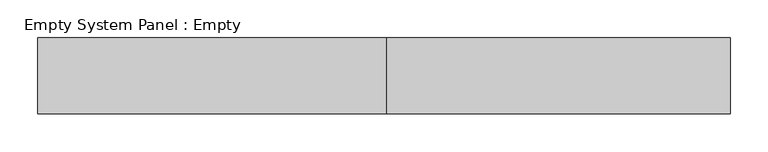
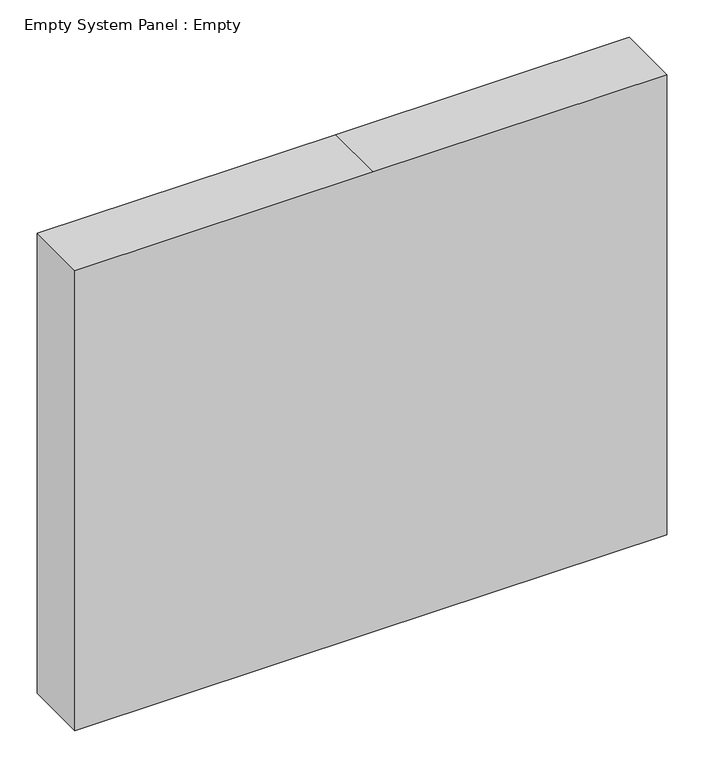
"""IFC4 building model written with IfcOpenShell, lengths in millimetres: plate geometry, Empty System Panel : Empty."""

import ifcopenshell
import ifcopenshell.guid

model = None  # the IFC model being written
_history = None  # IfcOwnerHistory: only IFC2X3 demands one
_inside = {}  # id of a spatial element -> (the spatial element, [elements in it])
_under = {}  # id of a project, library or spatial element -> (it, [spatial elements below it])
_declared = {}  # id of a project -> (the project, [libraries it declares])
_typed = {}  # id of a type object -> (the type object, [elements of that type])
_made_of = {}  # id of a material, layer set ... -> (it, [elements and type objects made of it])


def new_model(schema):
    """Start an empty IFC model of exactly this schema.

    Asked for "IFC4X3", IfcOpenShell would pick the latest addendum, in which some entities
    have other attributes; the version numbers below select the first issue.
    IFC2X3 requires an IfcOwnerHistory on every rooted entity: one is made here for all.
    """
    global model, _history
    if schema == "IFC4X3":
        model = ifcopenshell.file(schema_version=(4, 3, 0, 0))
    else:
        model = ifcopenshell.file(schema=schema)
    _inside.clear()
    _under.clear()
    _declared.clear()
    _typed.clear()
    _made_of.clear()
    _history = None
    if model.schema == "IFC2X3":
        org = make("IfcOrganization", Name="unknown")
        user = make(
            "IfcPersonAndOrganization",
            ThePerson=make("IfcPerson", FamilyName="unknown"),
            TheOrganization=org,
        )
        app = make(
            "IfcApplication",
            ApplicationDeveloper=org,
            Version="unknown",
            ApplicationFullName="unknown",
            ApplicationIdentifier="unknown",
        )
        _history = make(
            "IfcOwnerHistory",
            OwningUser=user,
            OwningApplication=app,
            ChangeAction="ADDED",
            CreationDate=0,
        )
    return model


def make(cls, **values):
    """One entity of the class cls with the attributes given. An attribute that is None is left unset."""
    return model.create_entity(
        cls, **{name: value for name, value in values.items() if value is not None}
    )


def rooted(cls, **values):
    """An entity with a GlobalId (a new one), such as an element, a storey or a relation."""
    return make(cls, GlobalId=ifcopenshell.guid.new(), OwnerHistory=_history, **values)


def si_unit(unit_type, name, prefix=None):
    """IfcSIUnit, for example si_unit("LENGTHUNIT", "METRE", prefix="MILLI")."""
    return make("IfcSIUnit", UnitType=unit_type, Prefix=prefix, Name=name)


def assignment(units):
    """IfcUnitAssignment: the units of a project."""
    return None if units is None else make("IfcUnitAssignment", Units=units)


def point(xyz):
    """IfcCartesianPoint."""
    return None if xyz is None else make("IfcCartesianPoint", Coordinates=xyz)


def direction(xyz):
    """IfcDirection."""
    return None if xyz is None else make("IfcDirection", DirectionRatios=xyz)


def frame(location, z_axis=None, x_axis=None):
    """IfcAxis2Placement3D, a coordinate frame: its origin and axes. An axis left out is left unset."""
    return make(
        "IfcAxis2Placement3D",
        Location=point(location),
        Axis=direction(z_axis),
        RefDirection=direction(x_axis),
    )


def origin():
    """The frame at (0, 0, 0) with its axes left unset."""
    return frame((0.0, 0.0, 0.0))


def place(relative_to, where):
    """IfcLocalPlacement: puts the frame where relative to a parent placement (None: the world)."""
    return make(
        "IfcLocalPlacement", PlacementRelTo=relative_to, RelativePlacement=where
    )


def context(
    kind, dimensions, precision=None, world=None, true_north=None, identifier=None
):
    """IfcGeometricRepresentationContext, for example the 3D "Model" context."""
    return make(
        "IfcGeometricRepresentationContext",
        ContextIdentifier=identifier,
        ContextType=kind,
        CoordinateSpaceDimension=dimensions,
        Precision=precision,
        WorldCoordinateSystem=world,
        TrueNorth=true_north,
    )


def project(units=None, contexts=None):
    """IfcProject with its units and contexts."""
    return rooted(
        "IfcProject",
        Name="project",
        RepresentationContexts=contexts,
        UnitsInContext=assignment(units),
    )


def spatial(cls, under=None, at=None, **own):
    """A site, building, storey or space (cls), placed at a placement, below another one or the project."""
    s = rooted(cls, ObjectPlacement=at, **own)
    if under is not None:
        _under.setdefault(under.id(), (under, []))[1].append(s)
    return s


def polyline(points):
    """IfcPolyline through the points."""
    return make("IfcPolyline", Points=[point(p) for p in points])


def outline(outer, holes=None, kind="AREA"):
    """IfcArbitraryClosedProfileDef: a profile drawn as a closed curve; with holes, ...WithVoids."""
    if holes is None:
        return make("IfcArbitraryClosedProfileDef", ProfileType=kind, OuterCurve=outer)
    return make(
        "IfcArbitraryProfileDefWithVoids",
        ProfileType=kind,
        OuterCurve=outer,
        InnerCurves=holes,
    )


def extrude(swept, where, along, depth):
    """IfcExtrudedAreaSolid: the profile swept, set in the frame where, extruded along a direction by depth."""
    return make(
        "IfcExtrudedAreaSolid",
        SweptArea=swept,
        Position=where,
        ExtrudedDirection=direction(along),
        Depth=depth,
    )


def shape(context_of_items, identifier, shape_type, items):
    """IfcShapeRepresentation: the items that make up one representation, for example the "Body"."""
    return make(
        "IfcShapeRepresentation",
        ContextOfItems=context_of_items,
        RepresentationIdentifier=identifier,
        RepresentationType=shape_type,
        Items=items,
    )


def source(mapping_origin, context_of_items, identifier, shape_type, items):
    """IfcRepresentationMap: a shape defined once, which mapped items show again and again."""
    return make(
        "IfcRepresentationMap",
        MappingOrigin=mapping_origin,
        MappedRepresentation=shape(context_of_items, identifier, shape_type, items),
    )


def transform(
    local_origin,
    x_axis=None,
    y_axis=None,
    z_axis=None,
    scale=None,
    scale2=None,
    scale3=None,
    uniform=True,
):
    """IfcCartesianTransformationOperator3D, or its non-uniform kind. x_axis, y_axis, z_axis: its Axis1, 2, 3."""
    if uniform:
        return make(
            "IfcCartesianTransformationOperator3D",
            Axis1=direction(x_axis),
            Axis2=direction(y_axis),
            LocalOrigin=point(local_origin),
            Scale=scale,
            Axis3=direction(z_axis),
        )
    return make(
        "IfcCartesianTransformationOperator3DnonUniform",
        Axis1=direction(x_axis),
        Axis2=direction(y_axis),
        LocalOrigin=point(local_origin),
        Scale=scale,
        Axis3=direction(z_axis),
        Scale2=scale2,
        Scale3=scale3,
    )


def mapped(mapping_source, mapping_target):
    """IfcMappedItem: shows the shape of a source again, moved by a transform."""
    return make(
        "IfcMappedItem", MappingSource=mapping_source, MappingTarget=mapping_target
    )


def made_of(thing, what):
    """Note that an element or type object is made of a material, layer set ...; save() writes the relation."""
    if what is not None:
        _made_of.setdefault(what.id(), (what, []))[1].append(thing)
    return thing


def element(
    cls,
    number,
    at=None,
    inside=None,
    cuts=None,
    type_object=None,
    material=None,
    context=None,
    identifier="Body",
    shape_type=None,
    held_by="IfcProductDefinitionShape",
    body=None,
    shapes=None,
    **own,
):
    """One element of the class cls, such as IfcWall. Its Tag is "e" and its number.

    at: its placement. inside: the storey or other place that contains it. cuts: it is an
    opening in that element (IfcRelVoidsElement). A single representation is given by context,
    identifier, shape_type and body (its items); several are given by shapes. held_by: the class
    of the entity that holds the representations. save() writes the other relations.
    """
    e = rooted(cls, Tag="e%d" % number, ObjectPlacement=at, **own)
    if body is not None:
        shapes = [shape(context, identifier, shape_type, body)]
    if shapes is not None:
        e.Representation = make(held_by, Representations=shapes)
    if inside is not None:
        _inside.setdefault(inside.id(), (inside, []))[1].append(e)
    if cuts is not None:
        rooted(
            "IfcRelVoidsElement", RelatingBuildingElement=cuts, RelatedOpeningElement=e
        )
    if type_object is not None:
        _typed.setdefault(type_object.id(), (type_object, []))[1].append(e)
    return made_of(e, material)


def aggregate(whole, parts):
    """IfcRelAggregates: a whole, such as a stair, and the parts it consists of."""
    return rooted("IfcRelAggregates", RelatingObject=whole, RelatedObjects=parts)


def save(model, path):
    """Write the relations noted so far, then the file.

    IfcRelAggregates (storeys below a building ...), IfcRelContainedInSpatialStructure (elements
    in a storey), IfcRelDefinesByType, IfcRelAssociatesMaterial and IfcRelDeclares: one each for
    every whole, place, type object, material and project.
    """
    for whole, parts in _under.values():
        aggregate(whole, parts)
    for where, things in _inside.values():
        rooted(
            "IfcRelContainedInSpatialStructure",
            RelatedElements=things,
            RelatingStructure=where,
        )
    for kind, things in _typed.values():
        rooted("IfcRelDefinesByType", RelatedObjects=things, RelatingType=kind)
    for what, things in _made_of.values():
        rooted("IfcRelAssociatesMaterial", RelatedObjects=things, RelatingMaterial=what)
    for by, libraries in _declared.values():
        rooted("IfcRelDeclares", RelatingContext=by, RelatedDefinitions=libraries)
    model.write(path)


def empty_system_panel_empty_2387188b(model_context):
    return source(origin(), model_context, "Body", "SweptSolid", [
        extrude(outline(polyline([(0.0, -456.25), (0.0, 3.75), (0.0, 456.25), (750.0, 456.25), (750.0, 3.75), (750.0, -456.25), (0.0, -456.25)])), frame((0.0, -50.0, 0.0), z_axis=(0.0, 1.0, 0.0), x_axis=(0.0, 0.0, 1.0)), (0.0, 0.0, 1.0), 100.0),
    ])


if __name__ == "__main__":
    model = new_model("IFC4")
    model_context = context("Model", 3, world=origin())
    ifc_project = project(units=[si_unit("LENGTHUNIT", "METRE", prefix="MILLI")], contexts=[model_context])
    site = spatial("IfcSite", under=ifc_project)
    building = spatial("IfcBuilding", under=site)
    placement = place(None, origin())
    empty_system_panel_empty_shape = empty_system_panel_empty_2387188b(model_context)
    element("IfcPlate", 1, ObjectType="Empty System Panel : Empty", at=placement, inside=building, context=model_context, shape_type="MappedRepresentation", body=[
        mapped(empty_system_panel_empty_shape, transform((0.0, 0.0, 0.0), x_axis=(1.0, 0.0, 0.0), y_axis=(0.0, 1.0, 0.0), z_axis=(0.0, 0.0, 1.0))),
    ])
    save(model, "model.ifc")
